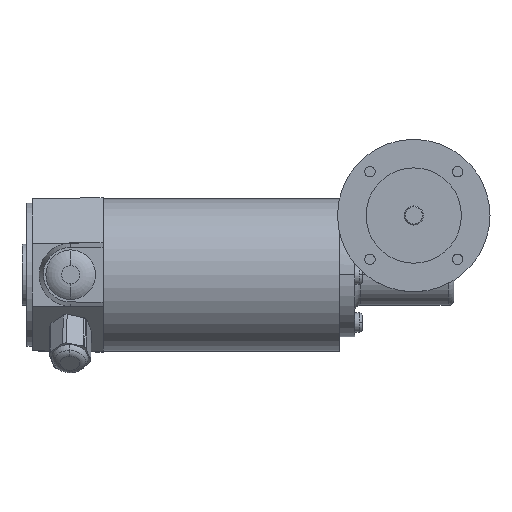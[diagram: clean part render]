
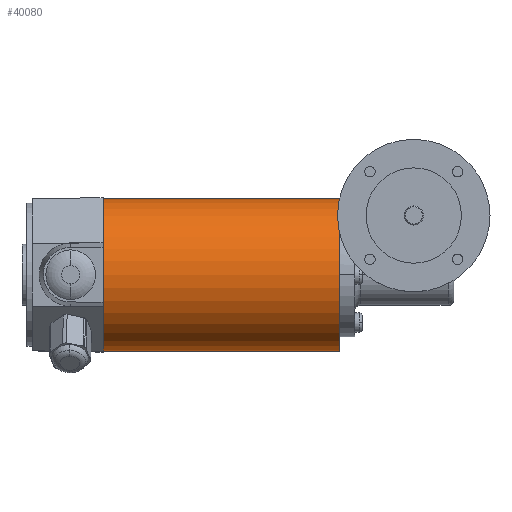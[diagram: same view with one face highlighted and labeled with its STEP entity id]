
A CAD part, top view. The second image highlights one B-rep face of the part: STEP entity #40080.
In plain terms, the highlighted cylindrical face has radius 40 mm (diameter 80 mm), a partial arc.
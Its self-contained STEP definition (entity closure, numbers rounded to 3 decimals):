
#5680=CARTESIAN_POINT('',(-51.849,455.,
19.808));
#5690=DIRECTION('',(-0.026,0.,
1.));
#5700=DIRECTION('',(1.,0.,
0.026));
#5710=AXIS2_PLACEMENT_3D('',#5680,#5690,#5700);
#5720=CIRCLE('',#5710,40.);
#5730=CARTESIAN_POINT('',(-11.863,455.,
20.855));
#5740=VERTEX_POINT('',#5730);
#5750=CARTESIAN_POINT('',(-91.835,455.,
18.761));
#5760=VERTEX_POINT('',#5750);
#5790=EDGE_CURVE('',#5760,#5740,#5720,.T.);
#38060=CARTESIAN_POINT('',(-48.603,455.,
-104.15));
#38070=DIRECTION('',(-0.026,0.,
1.));
#38080=DIRECTION('',(1.,0.,
0.026));
#38090=AXIS2_PLACEMENT_3D('',#38060,#38070,#38080);
#38100=CIRCLE('',#38090,40.);
#38130=CARTESIAN_POINT('',(-88.589,455.,
-105.197));
#38140=VERTEX_POINT('',#38130);
#38170=CARTESIAN_POINT('',(-8.617,455.,
-103.102));
#38180=VERTEX_POINT('',#38170);
#38190=EDGE_CURVE('',#38140,#38180,#38100,.T.);
#39870=CARTESIAN_POINT('',(-48.603,455.,
-104.15));
#39880=DIRECTION('',(-0.026,0.,
1.));
#39890=DIRECTION('',(1.,0.,
0.026));
#39900=AXIS2_PLACEMENT_3D('',#39870,#39880,#39890);
#39910=CYLINDRICAL_SURFACE('',#39900,40.);
#39920=CARTESIAN_POINT('',(-8.617,455.,
-103.102));
#39930=DIRECTION('',(-0.026,0.,
1.));
#39940=VECTOR('',#39930,1.);
#39950=LINE('',#39920,#39940);
#39960=EDGE_CURVE('',#38180,#5740,#39950,.T.);
#39970=ORIENTED_EDGE('',*,*,#39960,.T.);
#39980=ORIENTED_EDGE('',*,*,#38190,.T.);
#39990=CARTESIAN_POINT('',(-88.589,455.,
-105.197));
#40000=DIRECTION('',(-0.026,0.,
1.));
#40010=VECTOR('',#40000,1.);
#40020=LINE('',#39990,#40010);
#40030=EDGE_CURVE('',#38140,#5760,#40020,.T.);
#40040=ORIENTED_EDGE('',*,*,#40030,.F.);
#40050=ORIENTED_EDGE('',*,*,#5790,.F.);
#40060=EDGE_LOOP('',(#40050,#40040,#39980,#39970));
#40070=FACE_OUTER_BOUND('',#40060,.T.);
#40080=ADVANCED_FACE('',(#40070),#39910,.T.);
